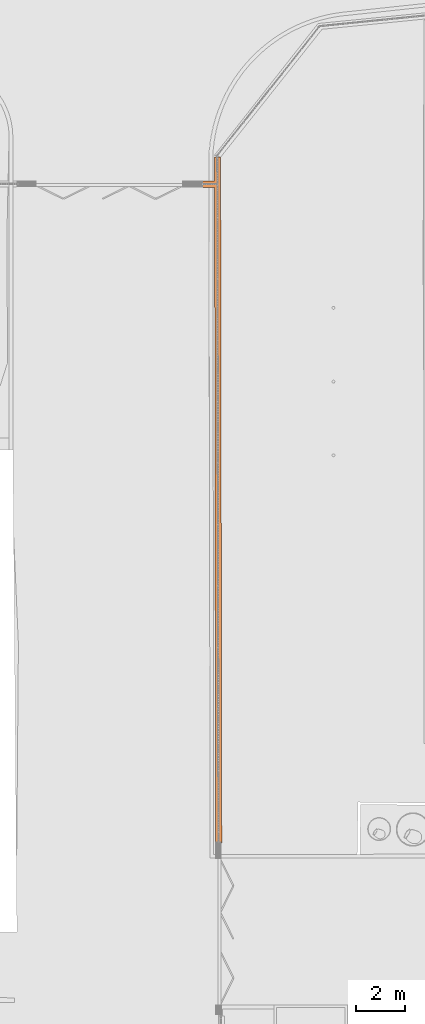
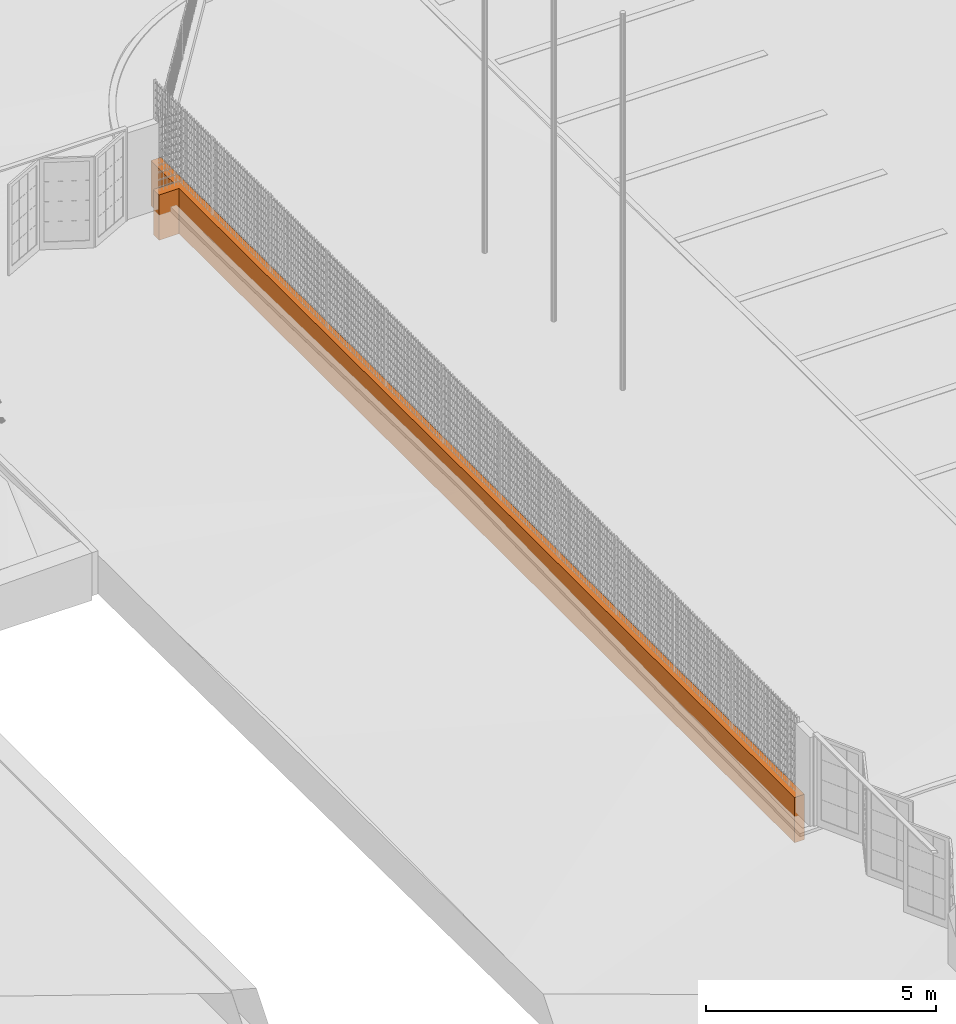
# One storey, part 36 of 1809: 1 proxy.
"""IFC2X3 building model written with IfcOpenShell, lengths in millimetres."""

from ifc_helpers import new_model, entity, si_unit, converted_unit, derived_unit, money_unit, direction, frame, origin_with_axes, place, context, subcontext, project, spatial, polyline, outline, extrude, material, type_object, element, save


model = new_model("IFC2X3")

# Units and contexts
model_context = context("Model", 3, precision=0.01, world=origin_with_axes(), true_north=direction((0.0, 1.0)))
body_context = subcontext(model_context, "Body", "Model", "MODEL_VIEW")
ifc_project = project(units=[si_unit("LENGTHUNIT", "METRE", prefix="MILLI"), si_unit("AREAUNIT", "SQUARE_METRE"), si_unit("VOLUMEUNIT", "CUBIC_METRE"), converted_unit("PLANEANGLEUNIT", "DEGREE", entity("IfcPlaneAngleMeasure", 0.0174532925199), si_unit("PLANEANGLEUNIT", "RADIAN"), dimensions=[0, 0, 0, 0, 0, 0, 0]), si_unit("SOLIDANGLEUNIT", "STERADIAN"), money_unit("EUR"), converted_unit("TIMEUNIT", "Year", entity("IfcTimeMeasure", 31556926.0), si_unit("TIMEUNIT", "SECOND"), dimensions=[0, 0, 1, 0, 0, 0, 0]), si_unit("MASSUNIT", "GRAM", prefix="KILO"), si_unit("THERMODYNAMICTEMPERATUREUNIT", "DEGREE_CELSIUS"), si_unit("LUMINOUSINTENSITYUNIT", "LUMEN"), si_unit("ENERGYUNIT", "JOULE", prefix="MEGA"), derived_unit("THERMALCONDUCTANCEUNIT", [(si_unit("POWERUNIT", "WATT"), 1), (si_unit("LENGTHUNIT", "METRE"), -1), (si_unit("THERMODYNAMICTEMPERATUREUNIT", "KELVIN"), -1)]), derived_unit("SPECIFICHEATCAPACITYUNIT", [(si_unit("ENERGYUNIT", "JOULE"), 1), (si_unit("MASSUNIT", "GRAM", prefix="KILO"), -1), (si_unit("THERMODYNAMICTEMPERATUREUNIT", "KELVIN"), -1)]), derived_unit("MASSDENSITYUNIT", [(si_unit("MASSUNIT", "GRAM", prefix="KILO"), 1), (si_unit("VOLUMEUNIT", "CUBIC_METRE"), -1)])], contexts=[model_context])

# Site, building, storey
site_placement = place(None, origin_with_axes())
site = spatial("IfcSite", under=ifc_project, at=site_placement, Name="Politse- ja Piirivalveameti ning Päästeameti ühishoone", CompositionType="ELEMENT")
building_placement = place(site_placement, origin_with_axes())
building = spatial("IfcBuilding", under=site, at=building_placement, Name="Politse- ja Piirivalveameti ning Päästeameti ühishoone", CompositionType="ELEMENT")
storey_placement = place(building_placement, origin_with_axes())
storey = spatial("IfcBuildingStorey", under=building, at=storey_placement, Name="Esimene korrus", CompositionType="ELEMENT", Elevation=0.0)

# Proxy
ifc_material = material(Name="Betoon")
building_element_proxy_type = type_object("IfcBuildingElementProxyType", Name="Betoon 1200", PredefinedType="NOTDEFINED")
proxy_placement = place(storey_placement, frame((59482.3886431, 76166.2220982, 400.0), z_axis=(0.0, 0.0, 1.0), x_axis=(1.0, 0.0, 0.0)))
element("IfcBuildingElementProxy", 1, at=proxy_placement, inside=storey, type_object=building_element_proxy_type, material=ifc_material, Name="PIIRDEAED", context=body_context, shape_type="SweptSolid", body=[
    extrude(outline(polyline([(0.0, 0.0), (1.61256428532, -976.052883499), (-499.640158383, -978.240561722), (-499.094610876, -1228.23937123), (2.02559527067, -1226.05227136), (46.093544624, -27899.4999151), (296.09320283, -27899.0868836), (249.999658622, 0.413031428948), (0.0, 0.0)])), frame((0.0, 0.0, -1200.0), z_axis=(0.0, 0.0, 1.0), x_axis=(1.0, 0.0, 0.0)), (0.0, 0.0, 1.0), 1200.0),
])

save(model, "model.ifc")
